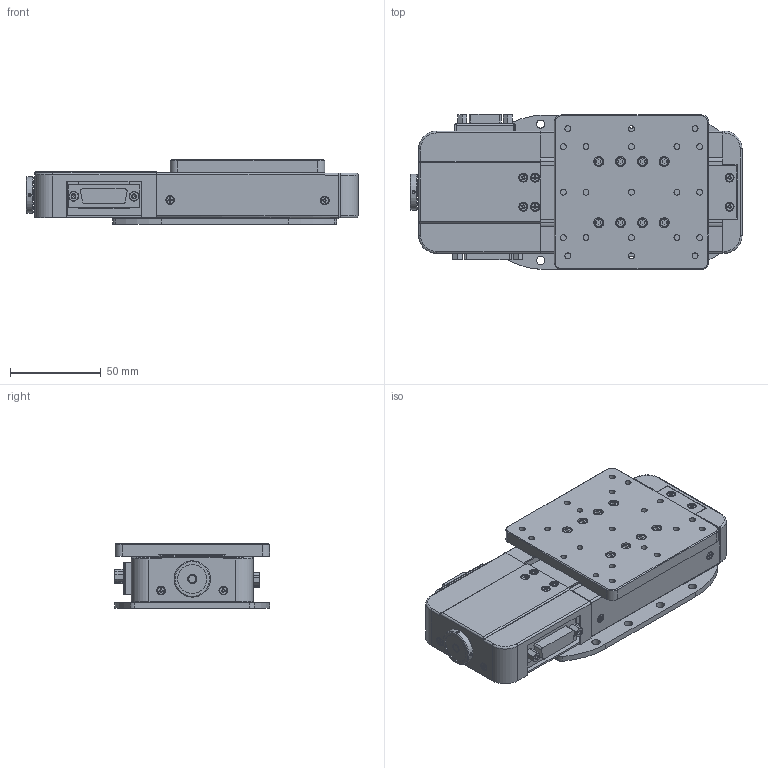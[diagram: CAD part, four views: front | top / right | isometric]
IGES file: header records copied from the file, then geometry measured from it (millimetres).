
Global section: file name: No Iges File Name specified; native system: AutoDesk Inventor R12.0; preprocessor: AutoDesk Inventor Iges Exporter R12.0; author: No Author specified; organization: No Organization specified; date: 20140423.192103; units: millimetre
Bounding box: 182.6 x 85.3 x 35.7 mm (x, y, z)
Volume: 220568.2 mm3; surface area: 147947 mm2
Topology: 2 solids, 76 shells, 2873 faces, 7318 edges, 4648 vertices
Faces by surface type: plane 1543, bspline 493, cylinder 441, cone 221, revolution 156, torus 18, sphere 1
Full cylindrical faces by diameter (mm): 12 x1
